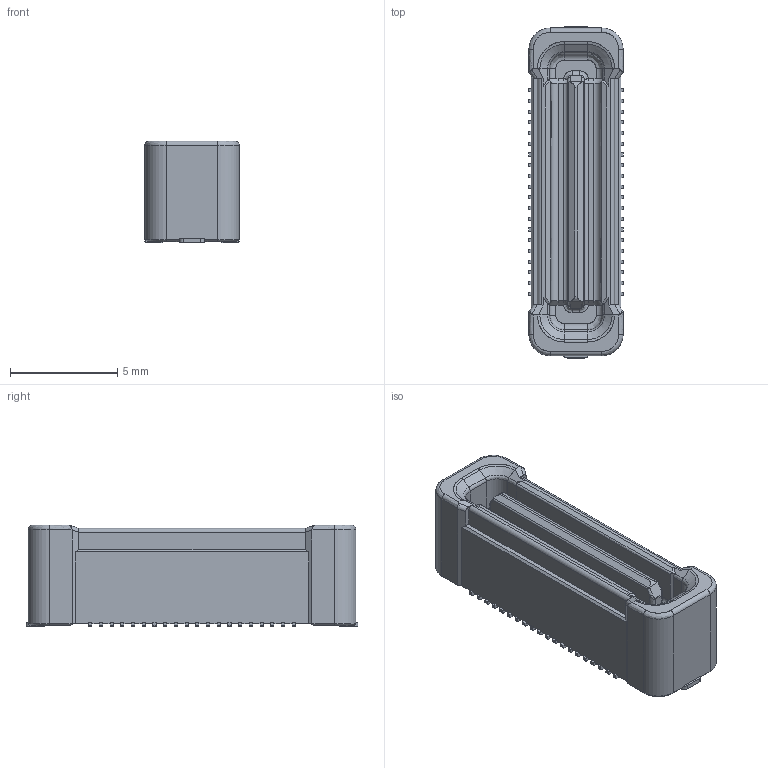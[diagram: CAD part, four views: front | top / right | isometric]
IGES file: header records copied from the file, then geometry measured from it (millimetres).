
Start section: SolidWorks IGES file using analytic representation for surfaces
Global section: file name: Q:\Kamikawa_Hisako\190710\MK_X4_5655_XXX_XXX_829+T\24_5655_XX0_60X_829+T\24_5655_XX0_600_829+T\24_5655_040_600_829+T.IGS; native system: SolidWorks 2017; preprocessor: SolidWorks 2017; author: HISAKO.KAMIKAWA.FJ; date: 190711.134015; units: millimetre
Bounding box: 4.4 x 15.5 x 4.75 mm (x, y, z)
Surface area: 405.8 mm2 (no closed solid volume)
Topology: 0 solids, 0 shells, 498 faces, 3389 edges, 3387 vertices
Faces by surface type: bspline 370, revolution 128
